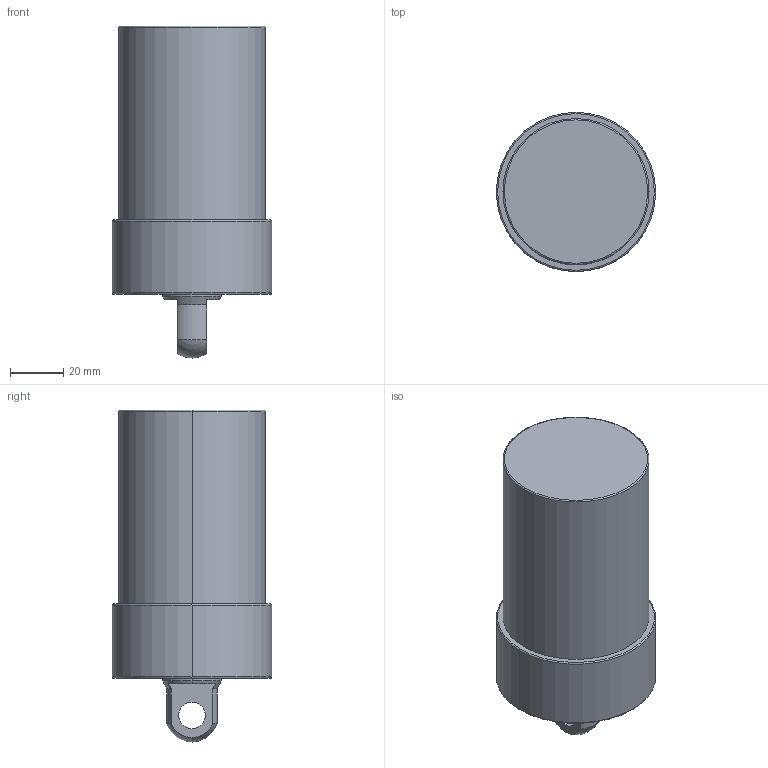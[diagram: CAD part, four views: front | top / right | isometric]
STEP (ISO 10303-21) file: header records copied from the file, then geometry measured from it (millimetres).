
FILE_DESCRIPTION (( 'STEP AP203' ), '1' );
FILE_NAME ('CLLU055-CP-060.STEP', '2017-05-12T10:49:02', ( '' ), ( '' ), 'SwSTEP 2.0', 'SolidWorks 2015', '' );
FILE_SCHEMA (( 'CONFIG_CONTROL_DESIGN' ));
Length unit declared in the file: millimetre
Products named in the file (1): CLLU055-CP-060
Bounding box: 60 x 60 x 125 mm (x, y, z)
Volume: 254832.9 mm3; surface area: 25867.2 mm2
Topology: 1 solids, 1 shells, 57 faces, 130 edges, 75 vertices
Faces by surface type: cylinder 22, cone 18, plane 9, torus 6, sphere 2
Entity records: 1643 total; most frequent: DIRECTION 308, CARTESIAN_POINT 267, ORIENTED_EDGE 244, AXIS2_PLACEMENT_3D 132, EDGE_CURVE 122, VERTEX_POINT 75, CIRCLE 74, EDGE_LOOP 67
